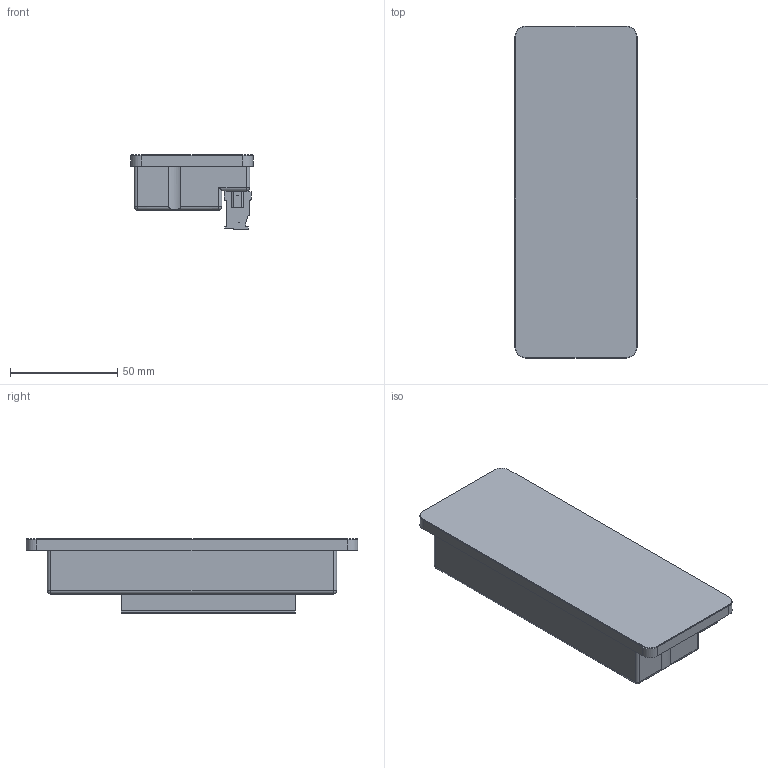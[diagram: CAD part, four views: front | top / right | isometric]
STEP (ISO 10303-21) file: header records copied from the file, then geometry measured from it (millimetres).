
FILE_DESCRIPTION(/* description */ (''),/* implementation_level */ '2;1');
FILE_NAME(/* name */ 'D:\Рабочая папка\WorkIONIS\Projects_IONIS\Мне\M v4\3D на сайт\BLIK 3D.stp',/* time_stamp */ '2024-10-09T16:14:11+03:00',/* author */ ('Admin'),/* organization */ (''),/* preprocessor_version */ 'ST-DEVELOPER v17.2',/* originating_system */ 'Autodesk Inventor 2019',/* authorisation */ '');
FILE_SCHEMA (('AUTOMOTIVE_DESIGN { 1 0 10303 214 3 1 1 }'));
Products named in the file (1): BLIK 3D
Bounding box: 57 x 155 x 34.9 mm (x, y, z)
Volume: 77815.8 mm3; surface area: 66380 mm2
Topology: 1 solids, 17 shells, 2215 faces, 6367 edges, 4257 vertices
Faces by surface type: plane 1621, cylinder 478, cone 41, sphere 37, torus 22, bspline 16
Full cylindrical faces by diameter (mm): 0.457 x1, 1.4 x16, 1.75 x2, 1.8 x2, 2.05 x20, 2.8 x31, 3.2 x2, 3.242 x2, 3.5 x2, 3.783 x16, 3.8 x2, 3.9 x2, 4 x16
Entity records: 82584 total; most frequent: CARTESIAN_POINT 22892, ORIENTED_EDGE 12734, DIRECTION 12131, EDGE_CURVE 6367, LINE 4477, VECTOR 4477, VERTEX_POINT 4257, AXIS2_PLACEMENT_3D 3827
